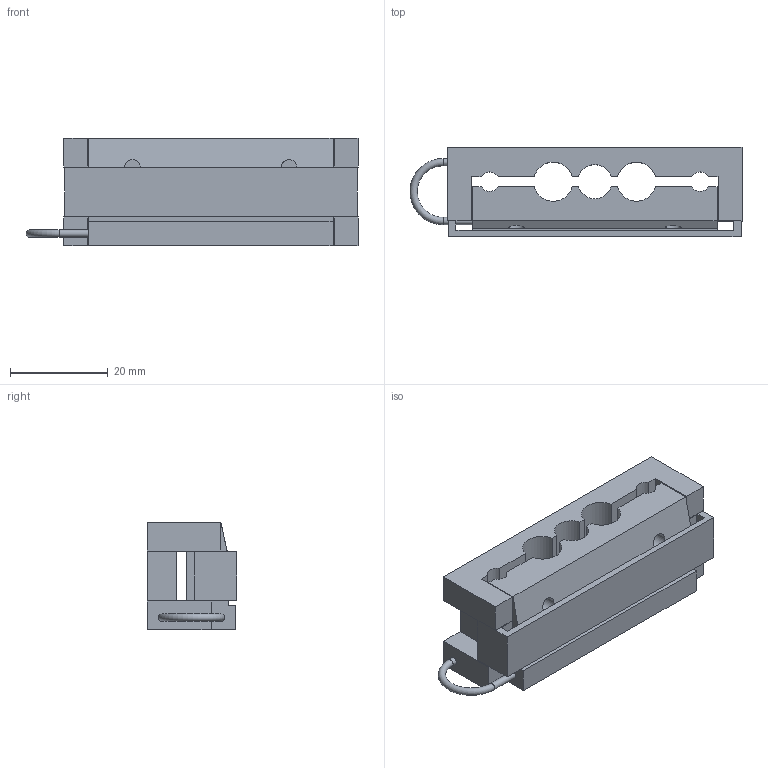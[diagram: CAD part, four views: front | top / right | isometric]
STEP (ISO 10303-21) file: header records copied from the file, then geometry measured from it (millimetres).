
FILE_DESCRIPTION( ( 'STEP AP214' ), '1' );
FILE_NAME( 'C:/Users/KOSH/Desktop/New folder/2021/Actiforce/Export/9309818.stp', '2021-12-03T09:56:56', ( '' ), ( '' ), ' ', 'PARTsolutions', ' ' );
FILE_SCHEMA( ( 'AUTOMOTIVE_DESIGN { 1 0 10303 214 1 1 1 1 }' ) );
Length unit declared in the file: millimetre
Products named in the file (1): _9309818
Bounding box: 67.79 x 18.2 x 22 mm (x, y, z)
Volume: 16583.6 mm3; surface area: 10322.9 mm2
Topology: 1 solids, 1 shells, 82 faces, 242 edges, 164 vertices
Faces by surface type: plane 63, cylinder 18, torus 1
Full cylindrical faces by diameter (mm): 1.5 x2, 2.3 x4, 3.2 x2
Entity records: 3311 total; most frequent: CARTESIAN_POINT 472, ORIENTED_EDGE 450, DIRECTION 425, EDGE_CURVE 225, LINE 183, VECTOR 183, VERTEX_POINT 156, AXIS2_PLACEMENT_3D 121
